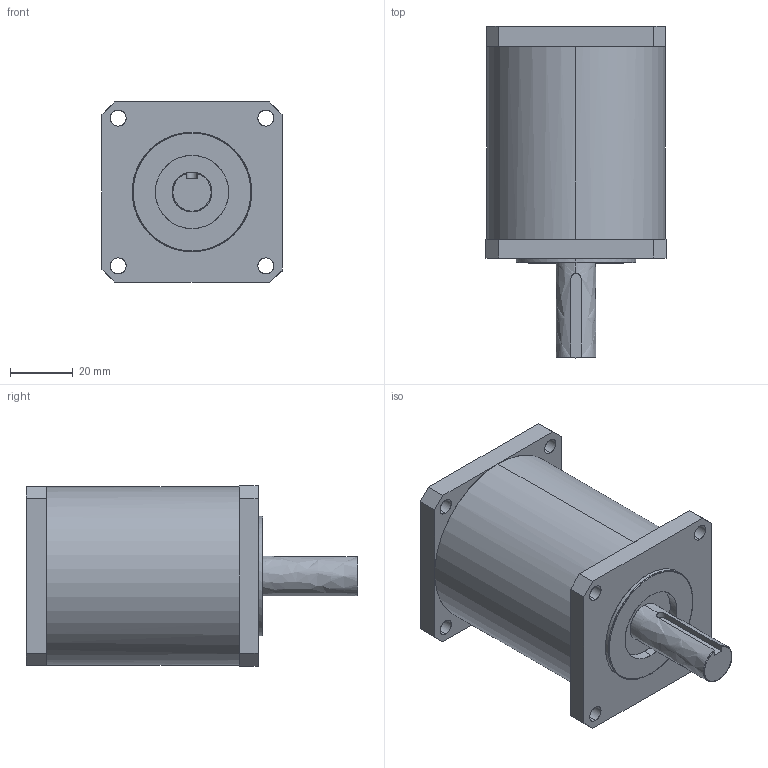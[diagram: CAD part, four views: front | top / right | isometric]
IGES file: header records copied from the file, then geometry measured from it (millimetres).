
Start section: Comment
Global section: file name: LT0131.igs; native system:  By UGS Corp.; preprocessor: XPlus GENERIC/IGES 3.0; author: Author; organization: Title; date: 20090505.115514; units: millimetre
Bounding box: 57.4 x 105.8 x 57.4 mm (x, y, z)
Surface area: 33555.5 mm2 (no closed solid volume)
Topology: 0 solids, 0 shells, 138 faces, 660 edges, 660 vertices
Faces by surface type: bspline 138
